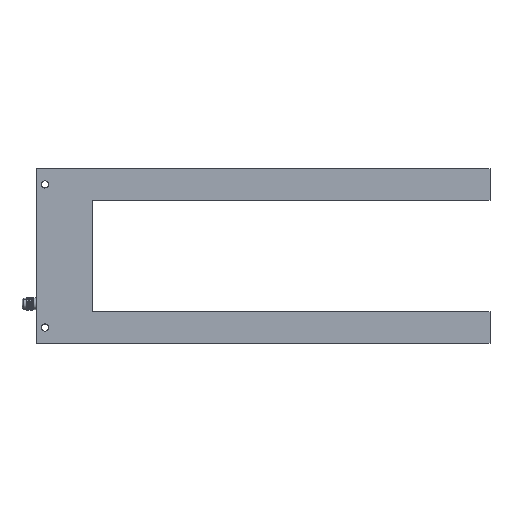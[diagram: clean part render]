
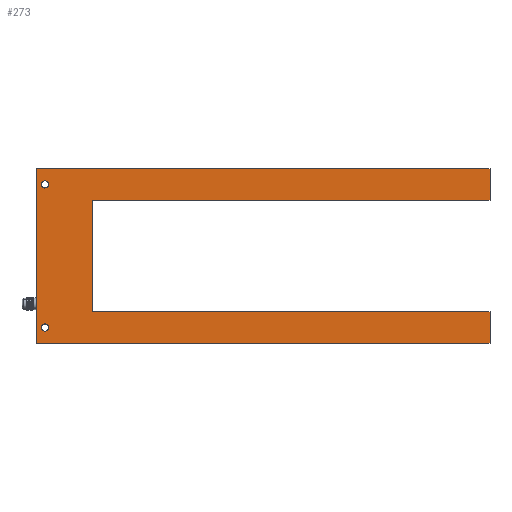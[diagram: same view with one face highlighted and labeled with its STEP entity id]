
A CAD part, top view. The second image highlights one B-rep face of the part: STEP entity #273.
In plain terms, the highlighted planar face has unit normal (0, 0, 1).
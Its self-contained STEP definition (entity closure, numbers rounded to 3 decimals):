
#273=ADVANCED_FACE('',(#554,#555,#556),#557,.T.);
#554=FACE_BOUND('',#2224,.T.);
#555=FACE_BOUND('',#2225,.T.);
#556=FACE_OUTER_BOUND('',#2226,.T.);
#557=PLANE('',#2227);
#2224=EDGE_LOOP('',(#2939,#2940));
#2225=EDGE_LOOP('',(#2941,#2942));
#2226=EDGE_LOOP('',(#2943,#2944,#2945,#2946,#2947,#2948,#2949,#2950,#2951,#2952,#2953,#2954));
#2227=AXIS2_PLACEMENT_3D('',#2955,#2956,#2957);
#2939=ORIENTED_EDGE('',*,*,#3273,.T.);
#2940=ORIENTED_EDGE('',*,*,#3134,.T.);
#2941=ORIENTED_EDGE('',*,*,#3078,.T.);
#2942=ORIENTED_EDGE('',*,*,#3117,.T.);
#2943=ORIENTED_EDGE('',*,*,#3221,.T.);
#2944=ORIENTED_EDGE('',*,*,#3262,.T.);
#2945=ORIENTED_EDGE('',*,*,#3229,.T.);
#2946=ORIENTED_EDGE('',*,*,#3160,.T.);
#2947=ORIENTED_EDGE('',*,*,#3257,.T.);
#2948=ORIENTED_EDGE('',*,*,#3279,.T.);
#2949=ORIENTED_EDGE('',*,*,#3156,.T.);
#2950=ORIENTED_EDGE('',*,*,#3289,.T.);
#2951=ORIENTED_EDGE('',*,*,#3168,.T.);
#2952=ORIENTED_EDGE('',*,*,#3224,.T.);
#2953=ORIENTED_EDGE('',*,*,#3038,.T.);
#2954=ORIENTED_EDGE('',*,*,#3270,.T.);
#2955=CARTESIAN_POINT('',(242.5,-45.0,10.));
#2956=DIRECTION('',(0.0,0.0,1.0));
#2957=DIRECTION('',(1.0,0.0,0.0));
#3038=EDGE_CURVE('',#3356,#3361,#3363,.T.);
#3078=EDGE_CURVE('',#3425,#3430,#3432,.T.);
#3117=EDGE_CURVE('',#3430,#3425,#3493,.T.);
#3134=EDGE_CURVE('',#3520,#3517,#3521,.T.);
#3156=EDGE_CURVE('',#3556,#3554,#3557,.T.);
#3160=EDGE_CURVE('',#3562,#3563,#3564,.T.);
#3168=EDGE_CURVE('',#3572,#3576,#3578,.T.);
#3221=EDGE_CURVE('',#3635,#3640,#3642,.T.);
#3224=EDGE_CURVE('',#3576,#3356,#3645,.T.);
#3229=EDGE_CURVE('',#3651,#3562,#3652,.T.);
#3257=EDGE_CURVE('',#3563,#3685,#3687,.T.);
#3262=EDGE_CURVE('',#3640,#3651,#3692,.T.);
#3270=EDGE_CURVE('',#3361,#3635,#3700,.T.);
#3273=EDGE_CURVE('',#3517,#3520,#3703,.T.);
#3279=EDGE_CURVE('',#3685,#3556,#3709,.T.);
#3289=EDGE_CURVE('',#3554,#3572,#3719,.T.);
#3356=VERTEX_POINT('',#3849);
#3361=VERTEX_POINT('',#3856);
#3363=LINE('',#3859,#3860);
#3425=VERTEX_POINT('',#4220);
#3430=VERTEX_POINT('',#4226);
#3432=CIRCLE('',#4229,2.25);
#3493=CIRCLE('',#4353,2.25);
#3517=VERTEX_POINT('',#4383);
#3520=VERTEX_POINT('',#4387);
#3521=CIRCLE('',#4388,2.25);
#3554=VERTEX_POINT('',#4470);
#3556=VERTEX_POINT('',#4473);
#3557=LINE('',#4474,#4475);
#3562=VERTEX_POINT('',#4482);
#3563=VERTEX_POINT('',#4483);
#3564=LINE('',#4484,#4485);
#3572=VERTEX_POINT('',#4496);
#3576=VERTEX_POINT('',#4502);
#3578=LINE('',#4505,#4506);
#3635=VERTEX_POINT('',#4650);
#3640=VERTEX_POINT('',#4657);
#3642=LINE('',#4660,#4661);
#3645=LINE('',#4665,#4666);
#3651=VERTEX_POINT('',#4695);
#3652=LINE('',#4696,#4697);
#3685=VERTEX_POINT('',#4866);
#3687=LINE('',#4869,#4870);
#3692=LINE('',#4876,#4877);
#3700=LINE('',#4885,#4886);
#3703=CIRCLE('',#4889,2.25);
#3709=LINE('',#4897,#4898);
#3719=LINE('',#4908,#4909);
#3849=CARTESIAN_POINT('',(-17.5,-40.0,10.0));
#3856=CARTESIAN_POINT('',(-17.5,-55.0,10.0));
#3859=CARTESIAN_POINT('',(-17.5,-45.0,10.0));
#3860=VECTOR('',#4955,1.0);
#4220=CARTESIAN_POINT('',(-10.25,45.0,10.0));
#4226=CARTESIAN_POINT('',(-14.75,45.0,10.0));
#4229=AXIS2_PLACEMENT_3D('',#4980,#4981,#4982);
#4353=AXIS2_PLACEMENT_3D('',#5026,#5027,#5028);
#4383=CARTESIAN_POINT('',(-10.25,-45.0,10.0));
#4387=CARTESIAN_POINT('',(-14.75,-45.0,10.0));
#4388=AXIS2_PLACEMENT_3D('',#5051,#5052,#5053);
#4470=CARTESIAN_POINT('',(-17.5,40.0,10.0));
#4473=CARTESIAN_POINT('',(-17.5,55.0,10.0));
#4474=CARTESIAN_POINT('',(-17.5,45.0,10.0));
#4475=VECTOR('',#5078,1.0);
#4482=CARTESIAN_POINT('',(17.515,35.0,10.0));
#4483=CARTESIAN_POINT('',(267.5,35.0,10.));
#4484=CARTESIAN_POINT('',(35.0,35.0,10.0));
#4485=VECTOR('',#5081,1.0);
#4496=CARTESIAN_POINT('',(-17.485,40.0,10.0));
#4502=CARTESIAN_POINT('',(-17.485,-40.0,10.0));
#4505=CARTESIAN_POINT('',(-17.485,0.0,10.0));
#4506=VECTOR('',#5088,1.);
#4650=CARTESIAN_POINT('',(267.5,-55.0,10.));
#4657=CARTESIAN_POINT('',(267.5,-35.0,10.));
#4660=CARTESIAN_POINT('',(267.5,-45.0,10.));
#4661=VECTOR('',#5154,1.0);
#4665=CARTESIAN_POINT('',(17.5,-40.0,10.0));
#4666=VECTOR('',#5156,1.0);
#4695=CARTESIAN_POINT('',(17.515,-35.0,10.0));
#4696=CARTESIAN_POINT('',(17.515,0.0,10.0));
#4697=VECTOR('',#5158,1.);
#4866=CARTESIAN_POINT('',(267.5,55.0,10.));
#4869=CARTESIAN_POINT('',(267.5,45.0,10.));
#4870=VECTOR('',#5178,1.0);
#4876=CARTESIAN_POINT('',(242.5,-35.0,10.));
#4877=VECTOR('',#5180,1.0);
#4885=CARTESIAN_POINT('',(35.0,-55.0,10.0));
#4886=VECTOR('',#5184,1.0);
#4889=AXIS2_PLACEMENT_3D('',#5185,#5186,#5187);
#4897=CARTESIAN_POINT('',(242.5,55.0,10.));
#4898=VECTOR('',#5190,1.0);
#4908=CARTESIAN_POINT('',(17.5,40.0,10.0));
#4909=VECTOR('',#5200,1.0);
#4955=DIRECTION('',(0.0,-1.0,0.));
#4980=CARTESIAN_POINT('',(-12.5,45.0,10.0));
#4981=DIRECTION('',(0.0,0.0,-1.0));
#4982=DIRECTION('',(1.0,0.0,0.0));
#5026=CARTESIAN_POINT('',(-12.5,45.0,10.0));
#5027=DIRECTION('',(0.0,0.0,-1.0));
#5028=DIRECTION('',(1.0,0.0,0.0));
#5051=CARTESIAN_POINT('',(-12.5,-45.0,10.0));
#5052=DIRECTION('',(0.0,0.,-1.0));
#5053=DIRECTION('',(1.0,0.0,0.0));
#5078=DIRECTION('',(0.0,-1.0,0.0));
#5081=DIRECTION('',(1.0,0.0,0.0));
#5088=DIRECTION('',(0.,-1.0,0.));
#5154=DIRECTION('',(0.0,1.0,0.0));
#5156=DIRECTION('',(-1.0,0.0,0.0));
#5158=DIRECTION('',(0.,1.0,0.));
#5178=DIRECTION('',(0.0,1.0,0.0));
#5180=DIRECTION('',(-1.0,0.0,0.0));
#5184=DIRECTION('',(1.0,0.0,0.0));
#5185=CARTESIAN_POINT('',(-12.5,-45.0,10.0));
#5186=DIRECTION('',(0.0,0.,-1.0));
#5187=DIRECTION('',(1.0,0.0,0.0));
#5190=DIRECTION('',(-1.0,0.0,0.0));
#5200=DIRECTION('',(1.0,0.0,0.0));
